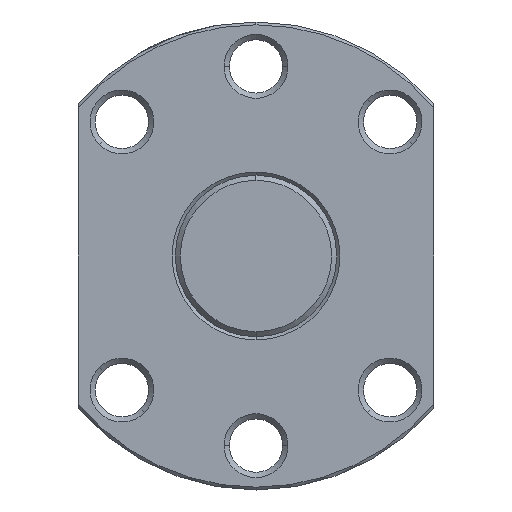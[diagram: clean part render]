
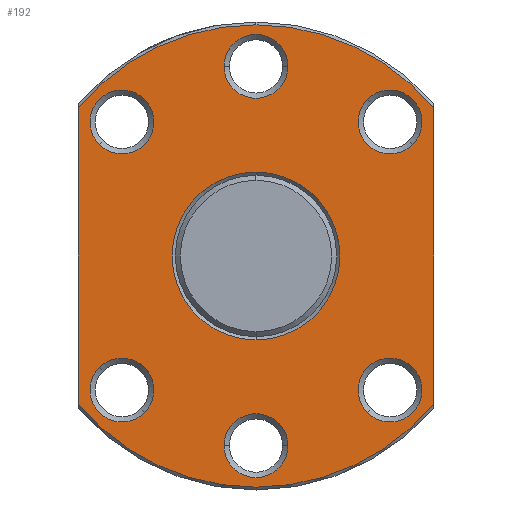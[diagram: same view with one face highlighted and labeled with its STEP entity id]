
A CAD part, left-side view. The second image highlights one B-rep face of the part: STEP entity #192.
In plain terms, the highlighted planar face has unit normal (-1, 0, 0).
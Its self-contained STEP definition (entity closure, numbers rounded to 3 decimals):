
#192=ADVANCED_FACE('',(#348,#349,#350,#351,#352,#353,#354,#355),#356,.T.);
#348=FACE_BOUND('',#521,.T.);
#349=FACE_OUTER_BOUND('',#522,.T.);
#350=FACE_BOUND('',#523,.T.);
#351=FACE_BOUND('',#524,.T.);
#352=FACE_BOUND('',#525,.T.);
#353=FACE_BOUND('',#526,.T.);
#354=FACE_BOUND('',#527,.T.);
#355=FACE_BOUND('',#528,.T.);
#356=PLANE('',#529);
#521=EDGE_LOOP('',(#1051,#1052));
#522=EDGE_LOOP('',(#1053,#1054,#1055,#1056,#1057,#1058));
#523=EDGE_LOOP('',(#1059,#1060));
#524=EDGE_LOOP('',(#1061,#1062));
#525=EDGE_LOOP('',(#1063,#1064));
#526=EDGE_LOOP('',(#1065,#1066));
#527=EDGE_LOOP('',(#1067,#1068));
#528=EDGE_LOOP('',(#1069,#1070));
#529=AXIS2_PLACEMENT_3D('',#1071,#1072,#1073);
#1051=ORIENTED_EDGE('',*,*,#1256,.T.);
#1052=ORIENTED_EDGE('',*,*,#1236,.T.);
#1053=ORIENTED_EDGE('',*,*,#1257,.T.);
#1054=ORIENTED_EDGE('',*,*,#1297,.F.);
#1055=ORIENTED_EDGE('',*,*,#1164,.F.);
#1056=ORIENTED_EDGE('',*,*,#1278,.T.);
#1057=ORIENTED_EDGE('',*,*,#1226,.F.);
#1058=ORIENTED_EDGE('',*,*,#1277,.F.);
#1059=ORIENTED_EDGE('',*,*,#1281,.T.);
#1060=ORIENTED_EDGE('',*,*,#1216,.T.);
#1061=ORIENTED_EDGE('',*,*,#1284,.T.);
#1062=ORIENTED_EDGE('',*,*,#1206,.T.);
#1063=ORIENTED_EDGE('',*,*,#1287,.T.);
#1064=ORIENTED_EDGE('',*,*,#1196,.T.);
#1065=ORIENTED_EDGE('',*,*,#1290,.T.);
#1066=ORIENTED_EDGE('',*,*,#1186,.T.);
#1067=ORIENTED_EDGE('',*,*,#1293,.T.);
#1068=ORIENTED_EDGE('',*,*,#1176,.T.);
#1069=ORIENTED_EDGE('',*,*,#1296,.T.);
#1070=ORIENTED_EDGE('',*,*,#1166,.T.);
#1071=CARTESIAN_POINT('',(25.0,0.0,14.325));
#1072=DIRECTION('',(-1.0,-0.0,0.));
#1073=DIRECTION('',(0.,0.0,-1.0));
#1164=EDGE_CURVE('',#1362,#1360,#1364,.T.);
#1166=EDGE_CURVE('',#1368,#1365,#1369,.T.);
#1176=EDGE_CURVE('',#1386,#1383,#1387,.T.);
#1186=EDGE_CURVE('',#1404,#1401,#1405,.T.);
#1196=EDGE_CURVE('',#1422,#1419,#1423,.T.);
#1206=EDGE_CURVE('',#1440,#1437,#1441,.T.);
#1216=EDGE_CURVE('',#1458,#1455,#1459,.T.);
#1226=EDGE_CURVE('',#1473,#1476,#1477,.T.);
#1236=EDGE_CURVE('',#1494,#1491,#1495,.T.);
#1256=EDGE_CURVE('',#1491,#1494,#1525,.T.);
#1257=EDGE_CURVE('',#1526,#1527,#1528,.T.);
#1277=EDGE_CURVE('',#1526,#1473,#1554,.T.);
#1278=EDGE_CURVE('',#1362,#1476,#1555,.T.);
#1281=EDGE_CURVE('',#1455,#1458,#1558,.T.);
#1284=EDGE_CURVE('',#1437,#1440,#1561,.T.);
#1287=EDGE_CURVE('',#1419,#1422,#1564,.T.);
#1290=EDGE_CURVE('',#1401,#1404,#1567,.T.);
#1293=EDGE_CURVE('',#1383,#1386,#1570,.T.);
#1296=EDGE_CURVE('',#1365,#1368,#1573,.T.);
#1297=EDGE_CURVE('',#1360,#1527,#1574,.T.);
#1360=VERTEX_POINT('',#1661);
#1362=VERTEX_POINT('',#1664);
#1364=CIRCLE('',#1675,28.65);
#1365=VERTEX_POINT('',#1676);
#1368=VERTEX_POINT('',#1680);
#1369=CIRCLE('',#1681,3.96);
#1383=VERTEX_POINT('',#1700);
#1386=VERTEX_POINT('',#1704);
#1387=CIRCLE('',#1705,3.96);
#1401=VERTEX_POINT('',#1724);
#1404=VERTEX_POINT('',#1728);
#1405=CIRCLE('',#1729,3.96);
#1419=VERTEX_POINT('',#1748);
#1422=VERTEX_POINT('',#1752);
#1423=CIRCLE('',#1753,3.96);
#1437=VERTEX_POINT('',#1772);
#1440=VERTEX_POINT('',#1776);
#1441=CIRCLE('',#1777,3.96);
#1455=VERTEX_POINT('',#1796);
#1458=VERTEX_POINT('',#1800);
#1459=CIRCLE('',#1801,3.96);
#1473=VERTEX_POINT('',#1820);
#1476=VERTEX_POINT('',#1824);
#1477=CIRCLE('',#1825,28.65);
#1491=VERTEX_POINT('',#1860);
#1494=VERTEX_POINT('',#1864);
#1495=CIRCLE('',#1865,10.4);
#1525=CIRCLE('',#1971,10.4);
#1526=VERTEX_POINT('',#1972);
#1527=VERTEX_POINT('',#1973);
#1528=LINE('',#1974,#1975);
#1554=CIRCLE('',#2041,28.65);
#1555=LINE('',#2042,#2043);
#1558=CIRCLE('',#2046,3.96);
#1561=CIRCLE('',#2049,3.96);
#1564=CIRCLE('',#2052,3.96);
#1567=CIRCLE('',#2055,3.96);
#1570=CIRCLE('',#2058,3.96);
#1573=CIRCLE('',#2061,3.96);
#1574=CIRCLE('',#2062,28.65);
#1661=CARTESIAN_POINT('',(25.0,0.,-28.65));
#1664=CARTESIAN_POINT('',(25.0,-22.0,-18.353));
#1675=AXIS2_PLACEMENT_3D('',#2133,#2134,#2135);
#1676=CARTESIAN_POINT('',(25.0,-13.817,19.417));
#1680=CARTESIAN_POINT('',(25.0,-19.417,13.817));
#1681=AXIS2_PLACEMENT_3D('',#2137,#2138,#2139);
#1700=CARTESIAN_POINT('',(25.0,3.96,23.5));
#1704=CARTESIAN_POINT('',(25.0,-3.96,23.5));
#1705=AXIS2_PLACEMENT_3D('',#2155,#2156,#2157);
#1724=CARTESIAN_POINT('',(25.0,19.417,13.817));
#1728=CARTESIAN_POINT('',(25.0,13.817,19.417));
#1729=AXIS2_PLACEMENT_3D('',#2173,#2174,#2175);
#1748=CARTESIAN_POINT('',(25.0,13.817,-19.417));
#1752=CARTESIAN_POINT('',(25.0,19.417,-13.817));
#1753=AXIS2_PLACEMENT_3D('',#2191,#2192,#2193);
#1772=CARTESIAN_POINT('',(25.0,-3.96,-23.5));
#1776=CARTESIAN_POINT('',(25.0,3.96,-23.5));
#1777=AXIS2_PLACEMENT_3D('',#2209,#2210,#2211);
#1796=CARTESIAN_POINT('',(25.0,-19.417,-13.817));
#1800=CARTESIAN_POINT('',(25.0,-13.817,-19.417));
#1801=AXIS2_PLACEMENT_3D('',#2227,#2228,#2229);
#1820=CARTESIAN_POINT('',(25.0,0.,28.65));
#1824=CARTESIAN_POINT('',(25.0,-22.0,18.353));
#1825=AXIS2_PLACEMENT_3D('',#2245,#2246,#2247);
#1860=CARTESIAN_POINT('',(25.0,0.0,10.4));
#1864=CARTESIAN_POINT('',(25.0,0.,-10.4));
#1865=AXIS2_PLACEMENT_3D('',#2261,#2262,#2263);
#1971=AXIS2_PLACEMENT_3D('',#2297,#2298,#2299);
#1972=CARTESIAN_POINT('',(25.0,22.0,18.353));
#1973=CARTESIAN_POINT('',(25.0,22.0,-18.353));
#1974=CARTESIAN_POINT('',(25.0,22.0,7.163));
#1975=VECTOR('',#2300,1.0);
#2041=AXIS2_PLACEMENT_3D('',#2338,#2339,#2340);
#2042=CARTESIAN_POINT('',(25.0,-22.0,7.163));
#2043=VECTOR('',#2341,1.0);
#2046=AXIS2_PLACEMENT_3D('',#2348,#2349,#2350);
#2049=AXIS2_PLACEMENT_3D('',#2357,#2358,#2359);
#2052=AXIS2_PLACEMENT_3D('',#2366,#2367,#2368);
#2055=AXIS2_PLACEMENT_3D('',#2375,#2376,#2377);
#2058=AXIS2_PLACEMENT_3D('',#2384,#2385,#2386);
#2061=AXIS2_PLACEMENT_3D('',#2393,#2394,#2395);
#2062=AXIS2_PLACEMENT_3D('',#2396,#2397,#2398);
#2133=CARTESIAN_POINT('',(25.0,0.0,0.0));
#2134=DIRECTION('',(1.0,0.0,-0.0));
#2135=DIRECTION('',(0.0,0.0,1.0));
#2137=CARTESIAN_POINT('',(25.0,-16.617,16.617));
#2138=DIRECTION('',(1.0,0.,0.));
#2139=DIRECTION('',(0.,0.707,0.707));
#2155=CARTESIAN_POINT('',(25.0,0.0,23.5));
#2156=DIRECTION('',(1.0,-0.0,0.));
#2157=DIRECTION('',(0.0,1.0,0.0));
#2173=CARTESIAN_POINT('',(25.0,16.617,16.617));
#2174=DIRECTION('',(1.0,0.,0.));
#2175=DIRECTION('',(0.,0.707,-0.707));
#2191=CARTESIAN_POINT('',(25.0,16.617,-16.617));
#2192=DIRECTION('',(1.0,0.,0.));
#2193=DIRECTION('',(0.,-0.707,-0.707));
#2209=CARTESIAN_POINT('',(25.0,0.0,-23.5));
#2210=DIRECTION('',(1.0,0.0,0.));
#2211=DIRECTION('',(0.0,-1.0,0.0));
#2227=CARTESIAN_POINT('',(25.0,-16.617,-16.617));
#2228=DIRECTION('',(1.0,0.,0.));
#2229=DIRECTION('',(0.,-0.707,0.707));
#2245=CARTESIAN_POINT('',(25.0,0.0,0.0));
#2246=DIRECTION('',(1.0,0.0,-0.0));
#2247=DIRECTION('',(0.0,0.0,1.0));
#2261=CARTESIAN_POINT('',(25.0,0.0,0.0));
#2262=DIRECTION('',(1.0,0.0,0.));
#2263=DIRECTION('',(0.,0.0,1.0));
#2297=CARTESIAN_POINT('',(25.0,0.0,0.0));
#2298=DIRECTION('',(1.0,0.0,0.));
#2299=DIRECTION('',(0.,0.0,1.0));
#2300=DIRECTION('',(0.,0.0,-1.0));
#2338=CARTESIAN_POINT('',(25.0,0.0,0.0));
#2339=DIRECTION('',(1.0,0.0,-0.0));
#2340=DIRECTION('',(0.0,0.0,1.0));
#2341=DIRECTION('',(0.,0.0,1.0));
#2348=CARTESIAN_POINT('',(25.0,-16.617,-16.617));
#2349=DIRECTION('',(1.0,0.,0.));
#2350=DIRECTION('',(0.,-0.707,0.707));
#2357=CARTESIAN_POINT('',(25.0,0.0,-23.5));
#2358=DIRECTION('',(1.0,0.0,0.));
#2359=DIRECTION('',(0.0,-1.0,0.0));
#2366=CARTESIAN_POINT('',(25.0,16.617,-16.617));
#2367=DIRECTION('',(1.0,0.,0.));
#2368=DIRECTION('',(0.,-0.707,-0.707));
#2375=CARTESIAN_POINT('',(25.0,16.617,16.617));
#2376=DIRECTION('',(1.0,0.,0.));
#2377=DIRECTION('',(0.,0.707,-0.707));
#2384=CARTESIAN_POINT('',(25.0,0.0,23.5));
#2385=DIRECTION('',(1.0,-0.0,0.));
#2386=DIRECTION('',(0.0,1.0,0.0));
#2393=CARTESIAN_POINT('',(25.0,-16.617,16.617));
#2394=DIRECTION('',(1.0,0.,0.));
#2395=DIRECTION('',(0.,0.707,0.707));
#2396=CARTESIAN_POINT('',(25.0,0.0,0.0));
#2397=DIRECTION('',(1.0,0.0,-0.0));
#2398=DIRECTION('',(0.0,0.0,1.0));
